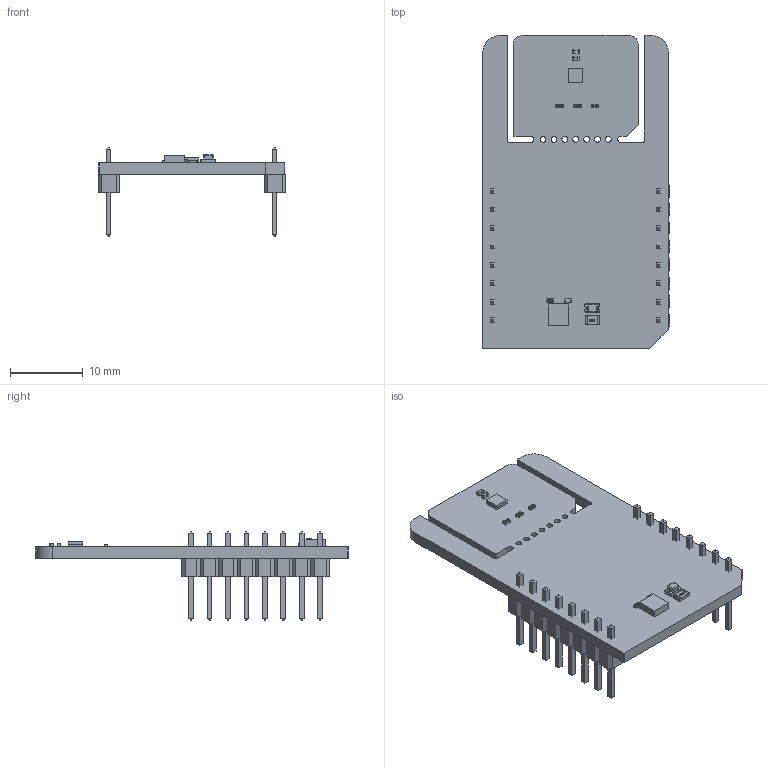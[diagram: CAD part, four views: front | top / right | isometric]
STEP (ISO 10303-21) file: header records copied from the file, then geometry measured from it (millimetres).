
FILE_DESCRIPTION(('Open CASCADE Model'),'2;1');
FILE_NAME('Open CASCADE Shape Model','2025-10-23T13:36:51',('Author'),( 'Open CASCADE'),'Open CASCADE STEP processor 6.8','Open CASCADE 6.8' ,'Unknown');
FILE_SCHEMA(('AUTOMOTIVE_DESIGN { 1 0 10303 214 1 1 1 1 }'));
Length unit declared in the file: millimetre
Products named in the file (27): PCB; Board; U2; LTR-390UV-01; R7; User_Library-R_0402; R6; R5; C5; User_Library-SMD_CAPACITOR0402; C2; U1; 1129895208; Extruded; C1; R2; LD1; led_0805_green; R1; User_Library-R_0805; MBD1; Header_1x8; Free-Models; 1240637040; User_Library-PinHeaderX5-1_PinHeaderX5_Body_1; User_Library-PinHeaderX5-1_PinHeaderX5_Pins_1
Assembly tree (33 placements, depth 7):
  PCB
    Board
    U2
      LTR-390UV-01
    R7
      User_Library-R_0402
    R6
      User_Library-R_0402
    R5
      User_Library-R_0402
    C5
      User_Library-SMD_CAPACITOR0402
    C2
      User_Library-SMD_CAPACITOR0402
    U1
      1129895208
        Extruded
    C1
      User_Library-SMD_CAPACITOR0402
    R2
      User_Library-R_0402
    LD1
      led_0805_green
    R1
      User_Library-R_0805
    MBD1
      Header_1x8  x2
        PCB
          Free-Models
            1240637040  x2
              User_Library-PinHeaderX5-1_PinHeaderX5_Body_1
              User_Library-PinHeaderX5-1_PinHeaderX5_Pins_1
Bounding box: 25.78 x 43.08 x 12.19 mm (x, y, z)
Volume: 2165.9 mm3; surface area: 3872.8 mm2
Topology: 42 solids, 42 shells, 1183 faces, 2949 edges, 1866 vertices
Faces by surface type: plane 924, bspline 146, cylinder 85, sphere 28
Full cylindrical faces by diameter (mm): 0.8 x7
Entity records: 21531 total; most frequent: CARTESIAN_POINT 6927, ORIENTED_EDGE 2434, DIRECTION 2111, EDGE_CURVE 1217, LINE 971, VECTOR 971, VERTEX_POINT 786, AXIS2_PLACEMENT_3D 570
